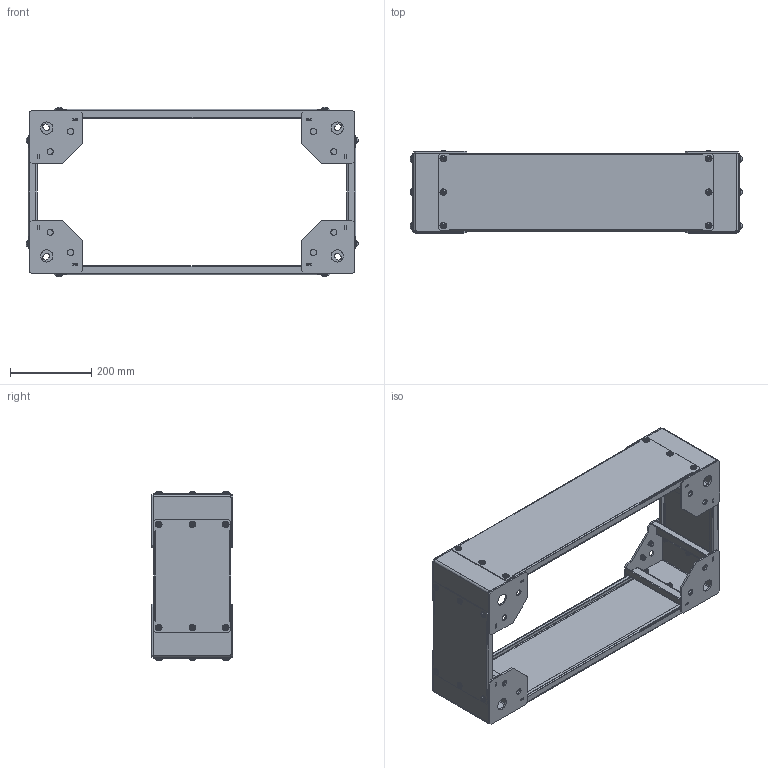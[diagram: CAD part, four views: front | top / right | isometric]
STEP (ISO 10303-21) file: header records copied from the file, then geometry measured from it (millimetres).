
FILE_DESCRIPTION (( 'STEP AP214' ), '1' );
FILE_NAME ('ZA 80.40 EQH (Ä199) ÑÁ Öîêîëü.STEP', '2025-07-31T09:49:57', ( '' ), ( '' ), 'SwSTEP 2.0', 'SolidWorks 2022', '' );
FILE_SCHEMA (( 'AUTOMOTIVE_DESIGN' ));
Length unit declared in the file: millimetre
Products named in the file (10): ZA EQ (Д199) СБ Угол цоколя; Винт М8х16 ISO 7380 c фланцем (S 8.16 MX)_S 8.16 MX; ZA 60 EQ 00.001 (Д199) Панель цоколя_ZA 80 EQ 00.001 (Д199) Панель цоколя; Шайба 8 стопорная DIN 6798; ZA 80.40 EQH (Д199) СБ Цоколь; ZA 60 EQ 00.001 (Д199) Панель цоколя_ZA 40 EQ 00.001 Панель цоколя; ZA EQ 00.001 Пластина нижняя_100; ZA EQ 00.002 Пластина верхняя_100; ZA EQ 00.003 (Д199) Угловой элемент; Заклепка вытяжная резьбовая рифленая оц. М8_Гайка М8 вытяжная - S3.0
Assembly tree (67 placements, depth 3):
  ZA 80.40 EQH (Д199) СБ Цоколь
    ZA EQ (Д199) СБ Угол цоколя  x4
      ZA EQ 00.001 Пластина нижняя_100
      ZA EQ 00.002 Пластина верхняя_100
      ZA EQ 00.003 (Д199) Угловой элемент
      Заклепка вытяжная резьбовая рифленая оц. М8_Гайка М8 вытяжная - S3.0
    ZA 60 EQ 00.001 (Д199) Панель цоколя_ZA 80 EQ 00.001 (Д199) Панель цоколя  x2
    ZA 60 EQ 00.001 (Д199) Панель цоколя_ZA 40 EQ 00.001 Панель цоколя  x2
    Винт М8х16 ISO 7380 c фланцем (S 8.16 MX)_S 8.16 MX  x24
    Шайба 8 стопорная DIN 6798  x24
Bounding box: 817.54 x 201.3 x 417.54 mm (x, y, z)
Volume: 2119888.1 mm3; surface area: 1724602.6 mm2
Topology: 72 solids, 120 shells, 4616 faces, 12568 edges, 8320 vertices
Faces by surface type: bspline 1440, cylinder 1408, plane 1336, torus 224, cone 160, sphere 48
Entity records: 15976 total; most frequent: CARTESIAN_POINT 3653, ORIENTED_EDGE 2454, DIRECTION 2312, EDGE_CURVE 1230, VERTEX_POINT 800, VECTOR 790, LINE 790, AXIS2_PLACEMENT_3D 761
